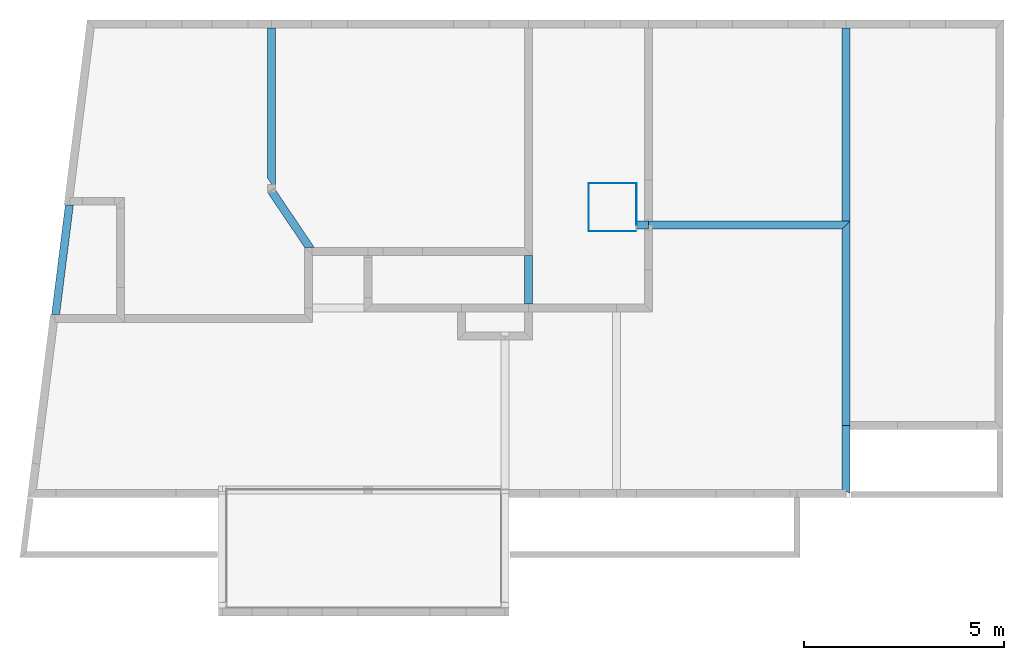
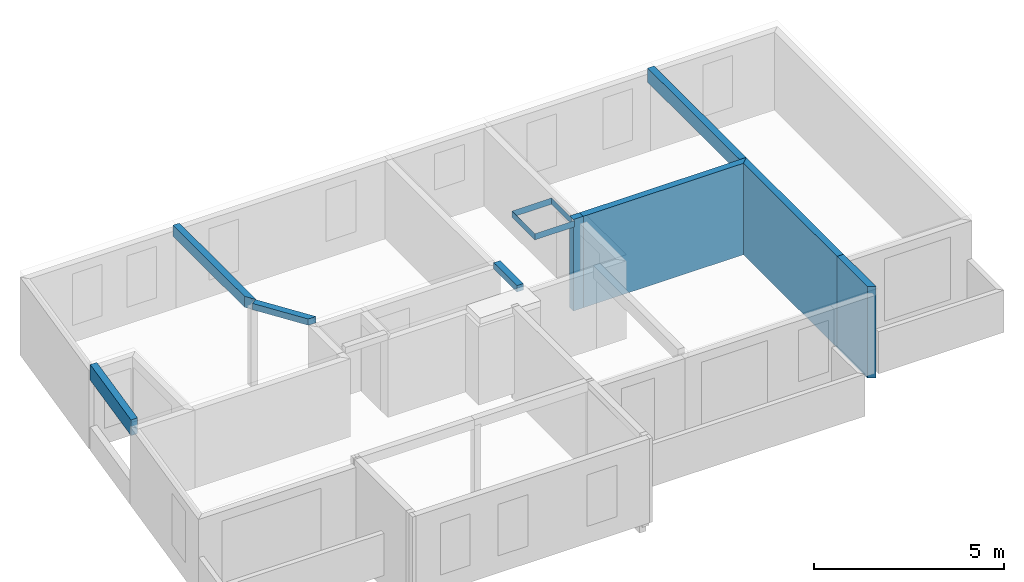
# One storey, part 2 of 11: 13 beams.
"""IFC2X3 building model written with IfcOpenShell, lengths in metres."""

from ifc_helpers import new_model, si_unit, direction, frame, origin_with_axes, place, context, subcontext, project, spatial, polyline, outline, extrude, material, type_object, element, save


model = new_model("IFC2X3")

# Units and contexts
model_context = context("Model", 3, precision=0.0001, world=origin_with_axes(), true_north=direction((0.0, 1.0)))
plan_context = context("Plan", 2, precision=0.0001, world=origin_with_axes(), true_north=direction((0.0, 1.0)))
body_context = subcontext(model_context, "Body", "Model", "MODEL_VIEW")
ifc_project = project(units=[si_unit("MASSUNIT", "GRAM", prefix="KILO"), si_unit("AREAUNIT", "SQUARE_METRE"), si_unit("LENGTHUNIT", "METRE"), si_unit("VOLUMEUNIT", "CUBIC_METRE")], contexts=[plan_context, model_context])

# Site, building, storey
site_placement = place(None, origin_with_axes())
site = spatial("IfcSite", under=ifc_project, at=site_placement, Name="$", CompositionType="ELEMENT")
building_placement = place(site_placement, origin_with_axes())
building = spatial("IfcBuilding", under=site, at=building_placement, Name="Classeur ENS Ensemble", CompositionType="ELEMENT")
storey_placement = place(building_placement, frame((-3.040468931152, -16.07714394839, 6.03), z_axis=(0.0, 0.0, 1.0), x_axis=(1.0, 0.0, 0.0)))
storey = spatial("IfcBuildingStorey", under=building, at=storey_placement, Name="003 R+2", CompositionType="ELEMENT", Elevation=6.03)

# Beams
ifc_material = material(Name="Default material")
beam_type = type_object("IfcBeamType", PredefinedType="BEAM")
beam_1_placement = place(storey_placement, frame((22.06888257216, 10.91710060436, -0.2300000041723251), z_axis=(0.0, 0.0, 1.0), x_axis=(2.693429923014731e-05, -0.9999999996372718, 0.0)))
element("IfcBeam", 1, at=beam_1_placement, inside=storey, type_object=beam_type, material=ifc_material, Name="PV BA 20 cm", context=body_context, shape_type="SweptSolid", held_by="IfcProductRepresentation", body=[
    extrude(outline(polyline([(-0.09999730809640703, 0.1000000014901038), (-0.09999730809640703, 0.1000000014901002), (-0.09999730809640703, 0.1000000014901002), (5.019913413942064, 0.1000000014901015), (5.019913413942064, 0.1000000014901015), (5.019913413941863, 0.100000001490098), (5.019913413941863, -0.1000000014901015), (5.019913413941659, -0.1000000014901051), (5.019913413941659, -0.1000000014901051), (0.0999973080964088, -0.1000000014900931), (0.0999973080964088, -0.1000000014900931), (0.0999973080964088, -0.1000000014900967), (-0.09999730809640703, 0.1000000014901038)])), origin_with_axes(), (0.0, 0.0, 1.0), 2.930000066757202),
])
beam_2_placement = place(storey_placement, frame((16.81578897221, 10.91710060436, -0.2300000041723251), z_axis=(0.0, 0.0, 1.0), x_axis=(1.0, 0.0, 0.0)))
element("IfcBeam", 2, at=beam_2_placement, inside=storey, type_object=beam_type, material=ifc_material, Name="PV BA 20 cm", context=body_context, shape_type="SweptSolid", held_by="IfcProductRepresentation", body=[
    extrude(outline(polyline([(0.0, 0.1000000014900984), (0.0, 0.1000000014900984), (0.0, 0.1000000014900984), (0.300186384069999, 0.1000000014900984), (0.300186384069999, 0.1000000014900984), (0.300186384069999, 0.1000000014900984), (0.300186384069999, -0.1000000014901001), (0.300186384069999, -0.1000000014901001), (0.300186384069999, -0.1000000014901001), (0.0, -0.1000000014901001), (0.0, -0.1000000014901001), (0.0, -0.1000000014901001), (0.0, 0.1000000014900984)])), origin_with_axes(), (0.0, 0.0, 1.0), 2.930000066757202),
])
beam_3_placement = place(storey_placement, frame((17.11597535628, 10.91710060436, -0.2300000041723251), z_axis=(0.0, 0.0, 1.0), x_axis=(1.0, 0.0, 0.0)))
element("IfcBeam", 3, at=beam_3_placement, inside=storey, type_object=beam_type, material=ifc_material, Name="PV BA 20 cm", context=body_context, shape_type="SweptSolid", held_by="IfcProductRepresentation", body=[
    extrude(outline(polyline([(0.0, 0.1000000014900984), (0.0, 0.1000000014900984), (0.0, 0.1000000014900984), (5.052904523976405, 0.1000000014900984), (5.052904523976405, 0.1000000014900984), (5.052904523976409, 0.1000000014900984), (4.852909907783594, -0.1000000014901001), (4.852909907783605, -0.1000000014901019), (4.852909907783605, -0.1000000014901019), (0.0, -0.1000000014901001), (0.0, -0.1000000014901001), (0.0, -0.1000000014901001), (0.0, 0.1000000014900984)])), origin_with_axes(), (0.0, 0.0, 1.0), 2.930000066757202),
])
beam_4_placement = place(storey_placement, frame((22.06887036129, 15.95714394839, 2.25), z_axis=(0.0, 0.0, 1.0), x_axis=(3.965584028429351e-05, -0.9999999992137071, 0.0)))
element("IfcBeam", 4, at=beam_4_placement, inside=storey, type_object=beam_type, material=ifc_material, Name="poutre BA 20 x 45", context=body_context, shape_type="SweptSolid", held_by="IfcProductRepresentation", body=[
    extrude(outline(polyline([(0.1000039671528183, 0.1000000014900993), (0.1000039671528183, 0.1000000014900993), (0.1000039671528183, 0.1000000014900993), (4.940043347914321, 0.100000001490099), (4.940043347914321, 0.100000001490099), (4.940043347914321, 0.100000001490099), (4.940043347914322, -0.1000000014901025), (4.940043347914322, -0.1000000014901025), (4.940043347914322, -0.1000000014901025), (0.09999603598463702, -0.1000000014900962), (0.09999603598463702, -0.1000000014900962), (0.09999603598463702, -0.1000000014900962), (0.1000039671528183, 0.1000000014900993)])), origin_with_axes(), (0.0, 0.0, 1.0), 0.449999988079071),
])
beam_5_placement = place(storey_placement, frame((7.676247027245, 11.7671508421, 2.349999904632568), z_axis=(0.0, 0.0, 1.0), x_axis=(0.0, 1.0, 0.0)))
element("IfcBeam", 5, at=beam_5_placement, inside=storey, type_object=beam_type, material=ifc_material, Name="poutre BA 20 x 35", context=body_context, shape_type="SweptSolid", held_by="IfcProductRepresentation", body=[
    extrude(outline(polyline([(0.3272966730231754, 0.1000000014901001), (0.3272966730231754, 0.1000000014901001), (0.3272966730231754, 0.1000000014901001), (4.0899931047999, 0.1000000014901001), (4.0899931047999, 0.1000000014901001), (4.0899931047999, 0.1000000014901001), (4.0899931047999, -0.1000000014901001), (4.0899931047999, -0.1000000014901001), (4.0899931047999, -0.1000000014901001), (0.03055332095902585, -0.1000000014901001), (0.03055332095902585, -0.1000000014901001), (0.03055332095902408, -0.1000000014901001), (0.3272966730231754, 0.1000000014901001)])), origin_with_axes(), (0.0, 0.0, 1.0), 0.3499999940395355),
])
beam_6_placement = place(storey_placement, frame((7.676247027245, 11.7671508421, 2.5), z_axis=(0.0, 0.0, 1.0), x_axis=(0.5588934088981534, -0.829239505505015, 0.0)))
element("IfcBeam", 6, at=beam_6_placement, inside=storey, type_object=beam_type, material=ifc_material, Name="BN 20", context=body_context, shape_type="SweptSolid", held_by="IfcProductRepresentation", body=[
    extrude(outline(polyline([(1.179611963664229e-16, 0.1000000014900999), (0.03055332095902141, 0.1000000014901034), (0.03055332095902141, 0.1000000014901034), (1.767759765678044, 0.100000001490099), (1.767759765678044, 0.100000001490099), (1.767759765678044, 0.100000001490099), (1.632963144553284, -0.100000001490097), (1.632963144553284, -0.100000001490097), (1.632963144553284, -0.100000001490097), (-9.378761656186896e-12, -0.1000000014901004), (-9.378761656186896e-12, -0.1000000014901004), (-1.179611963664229e-16, -0.1000000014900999), (1.179611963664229e-16, 0.1000000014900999)])), origin_with_axes(), (0.0, 0.0, 1.0), 0.2000000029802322),
])
beam_7_placement = place(storey_placement, frame((14.11597535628, 8.837143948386, 2.5), z_axis=(0.0, 0.0, 1.0), x_axis=(0.0, 1.0, 0.0)))
element("IfcBeam", 7, at=beam_7_placement, inside=storey, type_object=beam_type, material=ifc_material, Name="BN 20", context=body_context, shape_type="SweptSolid", held_by="IfcProductRepresentation", body=[
    extrude(outline(polyline([(0.1000000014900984, 0.1000000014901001), (0.1000000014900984, 0.1000000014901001), (0.1000000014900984, 0.1000000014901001), (1.3199999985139, 0.1000000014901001), (1.3199999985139, 0.1000000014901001), (1.3199999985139, 0.1000000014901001), (1.3199999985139, -0.1000000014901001), (1.3199999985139, -0.1000000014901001), (1.3199999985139, -0.1000000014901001), (0.1000000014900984, -0.1000000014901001), (0.1000000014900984, -0.1000000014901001), (0.1000000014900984, -0.1000000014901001), (0.1000000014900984, 0.1000000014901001)])), origin_with_axes(), (0.0, 0.0, 1.0), 0.2000000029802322),
])
beam_8_placement = place(storey_placement, frame((2.252963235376, 8.577143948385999, 2.200000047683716), z_axis=(0.0, 0.0, 1.0), x_axis=(0.1241879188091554, 0.9922587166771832, 0.0)))
element("IfcBeam", 8, at=beam_8_placement, inside=storey, type_object=beam_type, material=ifc_material, Name="poutre BA 20 x 50", context=body_context, shape_type="SweptSolid", held_by="IfcProductRepresentation", body=[
    extrude(outline(polyline([(0.0882644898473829, 0.1000000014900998), (0.0882644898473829, 0.1000000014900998), (0.0882644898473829, 0.1000000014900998), (2.849641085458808, 0.1000000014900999), (2.849641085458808, 0.1000000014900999), (2.849641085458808, 0.1000000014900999), (2.874672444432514, -0.1000000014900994), (2.874672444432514, -0.1000000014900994), (2.874672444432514, -0.1000000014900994), (0.1132958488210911, -0.1000000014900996), (0.1132958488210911, -0.1000000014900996), (0.1132958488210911, -0.1000000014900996), (0.0882644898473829, 0.1000000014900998)])), origin_with_axes(), (0.0, 0.0, 1.0), 0.5),
])
beam_9_placement = place(storey_placement, frame((22.06901778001, 5.897187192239, -0.2300000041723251), z_axis=(0.0, 0.0, 1.0), x_axis=(2.693429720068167e-05, -0.9999999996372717, 0.0)))
element("IfcBeam", 9, at=beam_9_placement, inside=storey, type_object=beam_type, material=ifc_material, Name="PV BA 20 cm", context=body_context, shape_type="SweptSolid", held_by="IfcProductRepresentation", body=[
    extrude(outline(polyline([(8.846793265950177e-17, 0.100000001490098), (-2.024162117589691e-13, 0.100000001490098), (-2.024162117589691e-13, 0.100000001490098), (1.700043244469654, 0.100000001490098), (1.700043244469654, 0.100000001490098), (1.700043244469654, 0.100000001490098), (1.600040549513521, -0.1000000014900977), (1.600040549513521, -0.1000000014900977), (1.600040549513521, -0.1000000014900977), (2.033042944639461e-13, -0.1000000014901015), (2.033042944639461e-13, -0.1000000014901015), (7.996147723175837e-16, -0.1000000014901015), (8.846793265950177e-17, 0.100000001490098)])), origin_with_axes(), (0.0, 0.0, 1.0), 2.930000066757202),
])
beam_10_placement = place(storey_placement, frame((15.61578897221, 11.96551139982, 2.5), z_axis=(0.0, 0.0, 1.0), x_axis=(1.0, 0.0, 0.0)))
element("IfcBeam", 10, at=beam_10_placement, inside=storey, type_object=beam_type, material=ifc_material, Name="Poutre auto", context=body_context, shape_type="SweptSolid", held_by="IfcProductRepresentation", body=[
    extrude(outline(polyline([(0.0, 0.001000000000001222), (0.0, 0.001000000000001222), (0.0, 0.001000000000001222), (1.199999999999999, 0.001000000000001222), (1.199999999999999, 0.001000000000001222), (1.199999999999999, 0.001000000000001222), (1.199999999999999, -0.0009999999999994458), (1.199999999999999, -0.0009999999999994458), (1.199999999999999, -0.0009999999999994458), (0.0, -0.0009999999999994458), (0.0, -0.0009999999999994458), (0.0, -0.0009999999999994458), (0.0, 0.001000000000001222)])), origin_with_axes(), (0.0, 0.0, 1.0), 0.2000000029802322),
])
beam_11_placement = place(storey_placement, frame((15.61578897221, 10.76551139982, 2.5), z_axis=(0.0, 0.0, 1.0), x_axis=(1.0, 0.0, 0.0)))
element("IfcBeam", 11, at=beam_11_placement, inside=storey, type_object=beam_type, material=ifc_material, Name="Poutre auto", context=body_context, shape_type="SweptSolid", held_by="IfcProductRepresentation", body=[
    extrude(outline(polyline([(0.0, 0.0009999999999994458), (0.0, 0.0009999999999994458), (0.0, 0.0009999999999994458), (1.199999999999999, 0.0009999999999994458), (1.199999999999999, 0.0009999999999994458), (1.199999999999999, 0.0009999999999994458), (1.199999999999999, -0.0009999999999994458), (1.199999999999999, -0.0009999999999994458), (1.199999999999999, -0.0009999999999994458), (0.0, -0.0009999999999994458), (0.0, -0.0009999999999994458), (0.0, -0.0009999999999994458), (0.0, 0.0009999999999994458)])), origin_with_axes(), (0.0, 0.0, 1.0), 0.2000000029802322),
])
beam_12_placement = place(storey_placement, frame((15.61578897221, 10.76551139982, 2.5), z_axis=(0.0, 0.0, 1.0), x_axis=(0.0, 1.0, 0.0)))
element("IfcBeam", 12, at=beam_12_placement, inside=storey, type_object=beam_type, material=ifc_material, Name="Poutre auto", context=body_context, shape_type="SweptSolid", held_by="IfcProductRepresentation", body=[
    extrude(outline(polyline([(0.0, 0.001000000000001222), (0.0, 0.001000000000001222), (0.0, 0.001000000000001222), (1.199999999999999, 0.001000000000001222), (1.199999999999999, 0.001000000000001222), (1.199999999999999, 0.001000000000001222), (1.199999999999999, -0.0009999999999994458), (1.199999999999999, -0.0009999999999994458), (1.199999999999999, -0.0009999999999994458), (0.0, -0.0009999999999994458), (0.0, -0.0009999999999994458), (0.0, -0.0009999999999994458), (0.0, 0.001000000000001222)])), origin_with_axes(), (0.0, 0.0, 1.0), 0.2000000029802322),
])
beam_13_placement = place(storey_placement, frame((16.81578897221, 10.91710060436, 2.5), z_axis=(0.0, 0.0, 1.0), x_axis=(0.0, 1.0, 0.0)))
element("IfcBeam", 13, at=beam_13_placement, inside=storey, type_object=beam_type, material=ifc_material, Name="Poutre auto", context=body_context, shape_type="SweptSolid", held_by="IfcProductRepresentation", body=[
    extrude(outline(polyline([(0.0, 0.001000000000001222), (0.0, 0.001000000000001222), (0.0, 0.001000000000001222), (1.048410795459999, 0.001000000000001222), (1.048410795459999, 0.001000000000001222), (1.048410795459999, 0.001000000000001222), (1.048410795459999, -0.001000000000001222), (1.048410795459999, -0.001000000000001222), (1.048410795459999, -0.001000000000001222), (0.0, -0.001000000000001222), (0.0, -0.001000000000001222), (0.0, -0.001000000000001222), (0.0, 0.001000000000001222)])), origin_with_axes(), (0.0, 0.0, 1.0), 0.2000000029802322),
])

save(model, "model.ifc")
